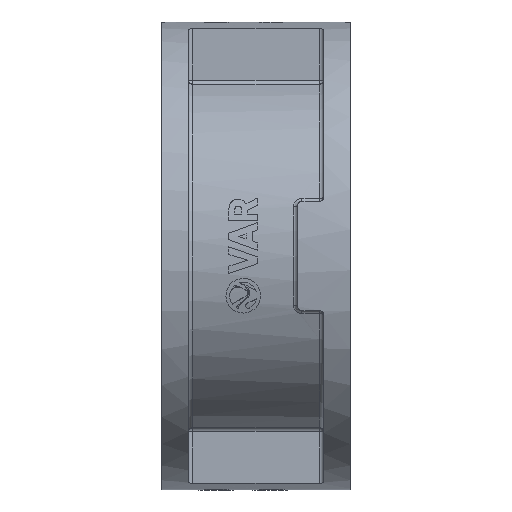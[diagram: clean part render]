
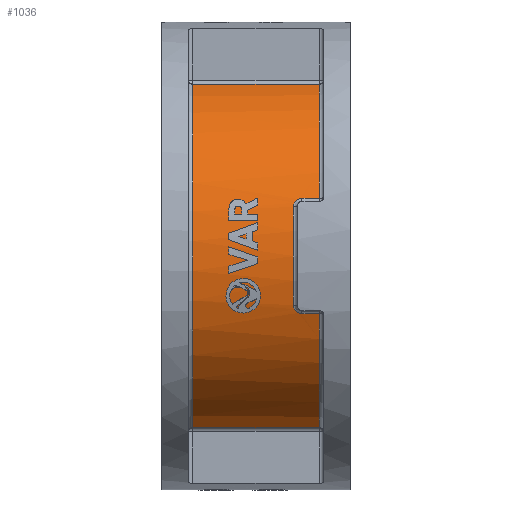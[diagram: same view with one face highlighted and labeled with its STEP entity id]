
A CAD part, left-side view. The second image highlights one B-rep face of the part: STEP entity #1036.
In plain terms, the highlighted cylindrical face has radius 41.5 mm (diameter 83 mm), a partial arc.
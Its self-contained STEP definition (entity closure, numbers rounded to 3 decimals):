
#1036=ADVANCED_FACE('',(#3658),#3660,.T.);
#3658=FACE_BOUND('',#3659,.T.);
#3659=EDGE_LOOP('',(#11000,#11001,#11002,#11003,#11004,#11005,#11006,#11007,#11008,
#11009));
#3660=CYLINDRICAL_SURFACE('',#3661,41.5);
#3661=AXIS2_PLACEMENT_3D('',#3662,#3663,#3664);
#3662=CARTESIAN_POINT('',(0.,6.,0.));
#3663=DIRECTION('',(0.,1.,0.));
#3664=DIRECTION('',(-1.,0.,0.));
#11000=ORIENTED_EDGE('',*,*,#13634,.T.);
#11001=ORIENTED_EDGE('',*,*,#13635,.F.);
#11002=ORIENTED_EDGE('',*,*,#13636,.F.);
#11003=ORIENTED_EDGE('',*,*,#13637,.F.);
#11004=ORIENTED_EDGE('',*,*,#13638,.T.);
#11005=ORIENTED_EDGE('',*,*,#13639,.F.);
#11006=ORIENTED_EDGE('',*,*,#13640,.F.);
#11007=ORIENTED_EDGE('',*,*,#13641,.F.);
#11008=ORIENTED_EDGE('',*,*,#13642,.F.);
#11009=ORIENTED_EDGE('',*,*,#13643,.F.);
#13634=EDGE_CURVE('',#14728,#14729,#14730,.T.);
#13635=EDGE_CURVE('',#14731,#14729,#14732,.F.);
#13636=EDGE_CURVE('',#14733,#14731,#14734,.T.);
#13637=EDGE_CURVE('',#14735,#14733,#14736,.T.);
#13638=EDGE_CURVE('',#14735,#14737,#14738,.T.);
#13639=EDGE_CURVE('',#14739,#14737,#14740,.F.);
#13640=EDGE_CURVE('',#14741,#14739,#14742,.T.);
#13641=EDGE_CURVE('',#14743,#14741,#14744,.F.);
#13642=EDGE_CURVE('',#14745,#14743,#14746,.F.);
#13643=EDGE_CURVE('',#14728,#14745,#14747,.T.);
#14728=VERTEX_POINT('',#17911);
#14729=VERTEX_POINT('',#17912);
#14730=CIRCLE('',#17913,41.5);
#14731=VERTEX_POINT('',#17917);
#14732=LINE('',#17918,#17919);
#14733=VERTEX_POINT('',#17921);
#14734=CIRCLE('',#17922,41.5);
#14735=VERTEX_POINT('',#17926);
#14736=LINE('',#17927,#17928);
#14737=VERTEX_POINT('',#17930);
#14738=CIRCLE('',#17931,41.5);
#14739=VERTEX_POINT('',#17935);
#14740=LINE('',#17936,#17937);
#14741=VERTEX_POINT('',#17939);
#14742=B_SPLINE_CURVE_WITH_KNOTS('',3,
(#17940,#17941,#17942,#17943,#17944,#17945,#17946,#17947,#17948,#17949,#17950,#17951,
#17952,#17953,#17954,#17955,#17956,#17957,#17958),
.UNSPECIFIED.,.F.,.F.,
(4,1,1,1,1,1,1,1,1,1,1,1,1,1,1,1,4),
(0.,0.024,0.045,0.066,0.091,
0.128,0.188,0.27,0.362,0.454,
0.54,0.626,0.704,0.778,0.848,
0.922,1.),
.UNSPECIFIED.);
#14743=VERTEX_POINT('',#17959);
#14744=CIRCLE('',#17960,41.5);
#14745=VERTEX_POINT('',#17964);
#14746=B_SPLINE_CURVE_WITH_KNOTS('',3,
(#17965,#17966,#17967,#17968,#17969,#17970,#17971,#17972,#17973,#17974,#17975,#17976,
#17977,#17978,#17979,#17980,#17981,#17982,#17983),
.UNSPECIFIED.,.F.,.F.,
(4,1,1,1,1,1,1,1,1,1,1,1,1,1,1,1,4),
(0.,0.024,0.045,0.066,0.091,0.128,
0.188,0.27,0.362,0.454,0.54,
0.626,0.704,0.778,0.848,0.922,
1.),
.UNSPECIFIED.);
#14747=LINE('',#17984,#17985);
#17911=CARTESIAN_POINT('',(-39.351,7.,13.182));
#17912=CARTESIAN_POINT('',(-13.426,7.,39.268));
#17913=AXIS2_PLACEMENT_3D('',#17914,#17915,#17916);
#17914=CARTESIAN_POINT('',(0.,7.,0.));
#17915=DIRECTION('',(0.,1.,0.));
#17916=DIRECTION('',(-0.948,0.,0.318));
#17917=CARTESIAN_POINT('',(-13.426,36.,39.268));
#17918=CARTESIAN_POINT('',(-13.426,7.,39.268));
#17919=VECTOR('',#17920,1.);
#17920=DIRECTION('',(0.,1.,0.));
#17921=CARTESIAN_POINT('',(-13.426,36.,-39.268));
#17922=AXIS2_PLACEMENT_3D('',#17923,#17924,#17925);
#17923=CARTESIAN_POINT('',(0.,36.,0.));
#17924=DIRECTION('',(0.,1.,0.));
#17925=DIRECTION('',(-0.324,0.,-0.946));
#17926=CARTESIAN_POINT('',(-13.426,7.,-39.268));
#17927=CARTESIAN_POINT('',(-13.426,7.,-39.268));
#17928=VECTOR('',#17929,1.);
#17929=DIRECTION('',(0.,1.,0.));
#17930=CARTESIAN_POINT('',(-39.351,7.,-13.182));
#17931=AXIS2_PLACEMENT_3D('',#17932,#17933,#17934);
#17932=CARTESIAN_POINT('',(0.,7.,0.));
#17933=DIRECTION('',(0.,1.,0.));
#17934=DIRECTION('',(-0.324,0.,-0.946));
#17935=CARTESIAN_POINT('',(-39.351,11.,-13.182));
#17936=CARTESIAN_POINT('',(-39.351,7.,-13.182));
#17937=VECTOR('',#17938,1.);
#17938=DIRECTION('',(0.,1.,0.));
#17939=CARTESIAN_POINT('',(-39.952,13.,-11.229));
#17940=CARTESIAN_POINT('',(-39.952,13.,-11.229));
#17941=CARTESIAN_POINT('',(-39.945,13.,-11.253));
#17942=CARTESIAN_POINT('',(-39.932,12.999,-11.299));
#17943=CARTESIAN_POINT('',(-39.914,12.996,-11.364));
#17944=CARTESIAN_POINT('',(-39.895,12.99,-11.43));
#17945=CARTESIAN_POINT('',(-39.872,12.98,-11.511));
#17946=CARTESIAN_POINT('',(-39.837,12.959,-11.631));
#17947=CARTESIAN_POINT('',(-39.786,12.916,-11.803));
#17948=CARTESIAN_POINT('',(-39.721,12.835,-12.021));
#17949=CARTESIAN_POINT('',(-39.649,12.709,-12.257));
#17950=CARTESIAN_POINT('',(-39.58,12.546,-12.478));
#17951=CARTESIAN_POINT('',(-39.518,12.357,-12.673));
#17952=CARTESIAN_POINT('',(-39.466,12.152,-12.833));
#17953=CARTESIAN_POINT('',(-39.424,11.935,-12.961));
#17954=CARTESIAN_POINT('',(-39.392,11.717,-13.057));
#17955=CARTESIAN_POINT('',(-39.369,11.491,-13.127));
#17956=CARTESIAN_POINT('',(-39.354,11.253,-13.172));
#17957=CARTESIAN_POINT('',(-39.351,11.086,-13.182));
#17958=CARTESIAN_POINT('',(-39.351,11.,-13.182));
#17959=CARTESIAN_POINT('',(-39.952,13.,11.229));
#17960=AXIS2_PLACEMENT_3D('',#17961,#17962,#17963);
#17961=CARTESIAN_POINT('',(0.,13.,0.));
#17962=DIRECTION('',(0.,1.,0.));
#17963=DIRECTION('',(-0.963,0.,-0.271));
#17964=CARTESIAN_POINT('',(-39.351,11.,13.182));
#17965=CARTESIAN_POINT('',(-39.952,13.,11.229));
#17966=CARTESIAN_POINT('',(-39.945,13.,11.253));
#17967=CARTESIAN_POINT('',(-39.932,12.999,11.299));
#17968=CARTESIAN_POINT('',(-39.914,12.996,11.364));
#17969=CARTESIAN_POINT('',(-39.895,12.99,11.43));
#17970=CARTESIAN_POINT('',(-39.872,12.98,11.511));
#17971=CARTESIAN_POINT('',(-39.837,12.959,11.631));
#17972=CARTESIAN_POINT('',(-39.786,12.916,11.803));
#17973=CARTESIAN_POINT('',(-39.721,12.835,12.021));
#17974=CARTESIAN_POINT('',(-39.649,12.709,12.257));
#17975=CARTESIAN_POINT('',(-39.58,12.546,12.478));
#17976=CARTESIAN_POINT('',(-39.518,12.357,12.673));
#17977=CARTESIAN_POINT('',(-39.466,12.152,12.833));
#17978=CARTESIAN_POINT('',(-39.424,11.935,12.961));
#17979=CARTESIAN_POINT('',(-39.392,11.717,13.057));
#17980=CARTESIAN_POINT('',(-39.369,11.491,13.127));
#17981=CARTESIAN_POINT('',(-39.354,11.253,13.172));
#17982=CARTESIAN_POINT('',(-39.351,11.086,13.182));
#17983=CARTESIAN_POINT('',(-39.351,11.,13.182));
#17984=CARTESIAN_POINT('',(-39.351,7.,13.182));
#17985=VECTOR('',#17986,1.);
#17986=DIRECTION('',(0.,1.,0.));
